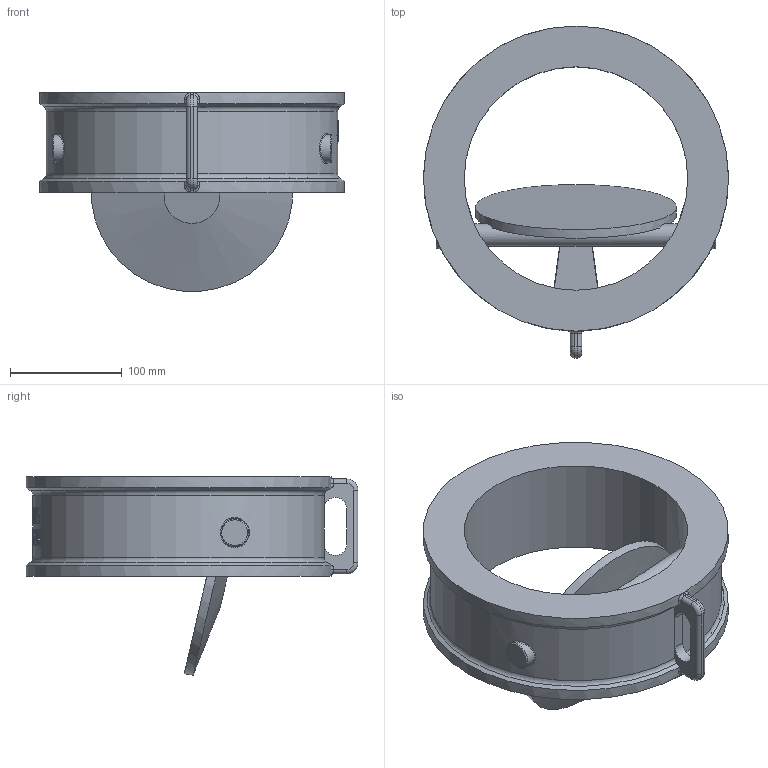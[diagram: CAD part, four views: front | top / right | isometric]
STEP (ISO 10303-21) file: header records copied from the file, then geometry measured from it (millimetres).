
FILE_DESCRIPTION( ( 'Unknown' ), '1' );
FILE_NAME( 'C:/Documents and Settings/Klaus/My Documents/Rootsi BPS 3D, Klaus/BPS 6530 tilting disc check valve/STEP/BPS6530200 tilting disc check valve DN200.stp', 'Unknown', ( 'Unknown' ), ( 'Unknown' ), 'PSStep 10.1', 'Unknown', ' ' );
FILE_SCHEMA( ( 'AUTOMOTIVE_DESIGN { 1 0 10303 214 1 1 1 1 }' ) );
Length unit declared in the file: millimetre
Products named in the file (1): 1
Bounding box: 273 x 297 x 177.67 mm (x, y, z)
Volume: 2487860.7 mm3; surface area: 257208.3 mm2
Topology: 1 solids, 1 shells, 235 faces, 571 edges, 370 vertices
Faces by surface type: bspline 91, plane 76, cylinder 54, torus 10, cone 4
Full cylindrical faces by diameter (mm): 20 x1, 180 x1, 200 x1
Entity records: 25121 total; most frequent: CARTESIAN_POINT 18890, ORIENTED_EDGE 1104, EDGE_CURVE 552, DIRECTION 466, B_SPLINE_CURVE_WITH_KNOTS 442, VERTEX_POINT 366, EDGE_LOOP 290, FACE_OUTER_BOUND 248
